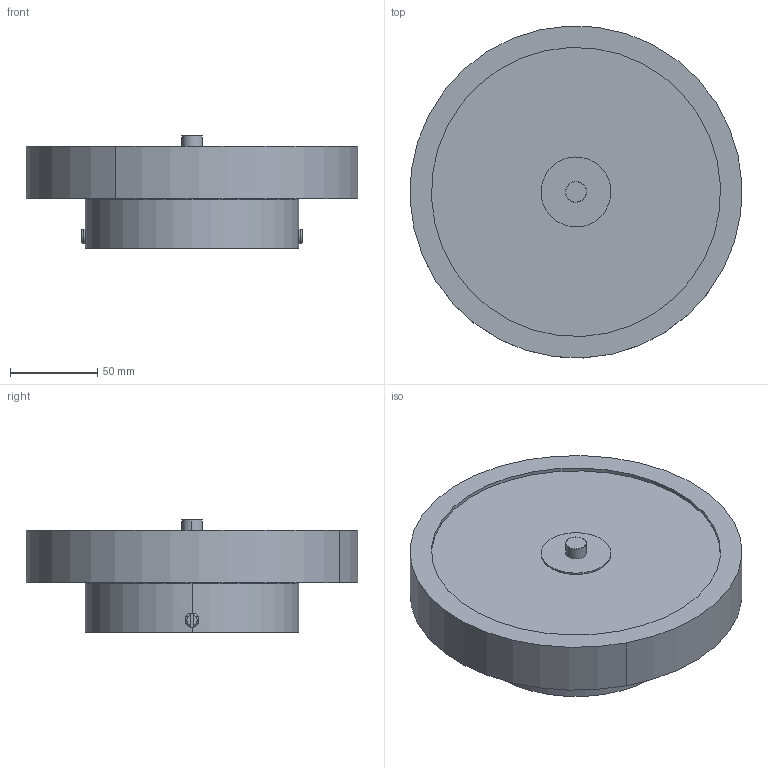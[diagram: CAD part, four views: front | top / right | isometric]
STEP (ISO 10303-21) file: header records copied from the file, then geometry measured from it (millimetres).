
FILE_DESCRIPTION (( 'STEP AP203' ), '1' );
FILE_NAME ('Spin aplic_Ø19cm_forma.STEP', '2025-07-08T07:55:19', ( '' ), ( '' ), 'SwSTEP 2.0', 'SolidWorks 2013', '' );
FILE_SCHEMA (( 'CONFIG_CONTROL_DESIGN' ));
Length unit declared in the file: millimetre
Products named in the file (10): AR117_FLORÓ ø120x30 2xM4 sistema USA; AG019_M4x8; Spin aplic_Ø19cm_forma; FU034_Anell Spin Ø190x31mm; PP046_Difusor amb lli Ø170; GI442_Tapa Ø185 fixació LED; GI451_Arandela Ø50 pas 10; GI111_Finalet Ø12x7_M10x1; GI197_SUP. FIXACIÓ FLORÓ 120; PP045_Difusor amb lli Ø164
Assembly tree (10 placements, depth 2):
  Spin aplic_Ø19cm_forma
    GI197_SUP. FIXACIÓ FLORÓ 120
    AR117_FLORÓ ø120x30 2xM4 sistema USA
    GI451_Arandela Ø50 pas 10
    PP045_Difusor amb lli Ø164
    GI442_Tapa Ø185 fixació LED
    FU034_Anell Spin Ø190x31mm
    PP046_Difusor amb lli Ø170
    GI111_Finalet Ø12x7_M10x1
    AG019_M4x8  x2
Bounding box: 189.81 x 189.81 x 64.5 mm (x, y, z)
Volume: 340360.3 mm3; surface area: 255341.3 mm2
Topology: 10 solids, 10 shells, 170 faces, 384 edges, 244 vertices
Faces by surface type: cylinder 96, plane 46, torus 18, cone 6, bspline 4
Entity records: 5982 total; most frequent: CARTESIAN_POINT 1200, DIRECTION 864, ORIENTED_EDGE 708, AXIS2_PLACEMENT_3D 374, EDGE_CURVE 354, VERTEX_POINT 226, CIRCLE 210, EDGE_LOOP 194
